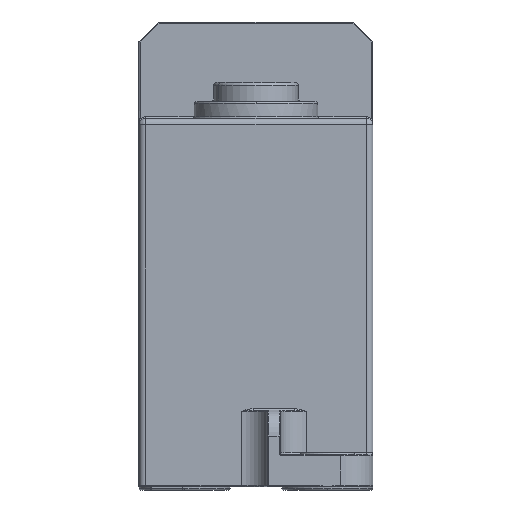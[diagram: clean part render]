
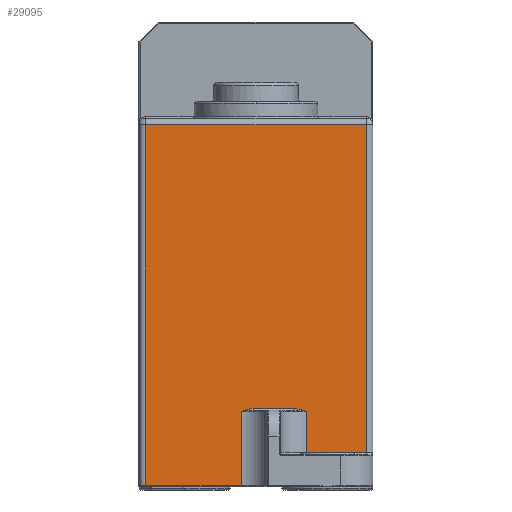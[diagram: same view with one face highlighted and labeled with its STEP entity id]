
A CAD part, left-side view. The second image highlights one B-rep face of the part: STEP entity #29095.
In plain terms, the highlighted planar face has unit normal (-1, 0, 0).
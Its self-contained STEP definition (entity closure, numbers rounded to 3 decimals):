
#186 = EDGE_CURVE ( 'NONE', #8585, #24531, #8661, .T. ) ;
#667 = DIRECTION ( 'NONE',  ( 0., 0., 1. ) ) ;
#782 = CARTESIAN_POINT ( 'NONE',  ( -65.405, 17.133, -28.85 ) ) ;
#834 = ORIENTED_EDGE ( 'NONE', *, *, #38565, .T. ) ;
#1318 = B_SPLINE_CURVE_WITH_KNOTS ( 'NONE', 3,
 ( #30686, #27193, #27468, #15509, #18175, #30544 ),
 .UNSPECIFIED., .F., .F.,
 ( 4, 2, 4 ),
 ( 0., 0.001, 0.002 ),
 .UNSPECIFIED. ) ;
#1641 = EDGE_CURVE ( 'NONE', #28712, #30841, #6205, .T. ) ;
#3033 = EDGE_CURVE ( 'NONE', #32080, #4862, #39315, .T. ) ;
#3280 = ORIENTED_EDGE ( 'NONE', *, *, #12655, .T. ) ;
#3542 = CARTESIAN_POINT ( 'NONE',  ( -65.405, 27.133, -22.45 ) ) ;
#4203 = CARTESIAN_POINT ( 'NONE',  ( -65.405, 27.133, 25.15 ) ) ;
#4242 = LINE ( 'NONE', #4203, #35726 ) ;
#4329 = ORIENTED_EDGE ( 'NONE', *, *, #8389, .T. ) ;
#4387 = VECTOR ( 'NONE', #16710, 1000. ) ;
#4862 = VERTEX_POINT ( 'NONE', #8532 ) ;
#5560 = CARTESIAN_POINT ( 'NONE',  ( -65.405, 27.133, -33.85 ) ) ;
#6042 = CARTESIAN_POINT ( 'NONE',  ( -65.405, 17.133, -22.45 ) ) ;
#6205 = LINE ( 'NONE', #22235, #29523 ) ;
#6533 = ORIENTED_EDGE ( 'NONE', *, *, #186, .T. ) ;
#6798 = DIRECTION ( 'NONE',  ( 0., 1., 0. ) ) ;
#7435 = ORIENTED_EDGE ( 'NONE', *, *, #20129, .T. ) ;
#7744 = CARTESIAN_POINT ( 'NONE',  ( -65.405, 6.883, -22.05 ) ) ;
#7798 = VECTOR ( 'NONE', #667, 1000. ) ;
#8243 = PLANE ( 'NONE',  #23610 ) ;
#8389 = EDGE_CURVE ( 'NONE', #36205, #28209, #27830, .T. ) ;
#8532 = CARTESIAN_POINT ( 'NONE',  ( -65.405, 25.344, -22.05 ) ) ;
#8585 = VERTEX_POINT ( 'NONE', #38489 ) ;
#8661 = LINE ( 'NONE', #16579, #12479 ) ;
#9540 = CARTESIAN_POINT ( 'NONE',  ( -65.405, 27.133, -33.85 ) ) ;
#9917 = VERTEX_POINT ( 'NONE', #14658 ) ;
#10193 = CARTESIAN_POINT ( 'NONE',  ( -65.405, 41.883, -33.85 ) ) ;
#11284 = EDGE_LOOP ( 'NONE', ( #6533, #3280, #26636, #19200, #11910, #7435, #35694, #31966, #4329, #834 ) ) ;
#11910 = ORIENTED_EDGE ( 'NONE', *, *, #36484, .T. ) ;
#12479 = VECTOR ( 'NONE', #16302, 1000. ) ;
#12593 = CARTESIAN_POINT ( 'NONE',  ( -65.405, 7.883, 21.65 ) ) ;
#12655 = EDGE_CURVE ( 'NONE', #24531, #31125, #22597, .T. ) ;
#13320 = LINE ( 'NONE', #21262, #29037 ) ;
#14544 = VECTOR ( 'NONE', #18743, 1000. ) ;
#14658 = CARTESIAN_POINT ( 'NONE',  ( -65.405, 18.921, -22.05 ) ) ;
#15469 = EDGE_CURVE ( 'NONE', #31125, #32080, #4242, .T. ) ;
#15509 = CARTESIAN_POINT ( 'NONE',  ( -65.405, 17.716, -22.26 ) ) ;
#15785 = CARTESIAN_POINT ( 'NONE',  ( -65.405, 25.652, -22.05 ) ) ;
#16302 = DIRECTION ( 'NONE',  ( 0., 0., -1. ) ) ;
#16579 = CARTESIAN_POINT ( 'NONE',  ( -65.405, 41.883, 25.15 ) ) ;
#16710 = DIRECTION ( 'NONE',  ( 0., -1., 0. ) ) ;
#17294 = LINE ( 'NONE', #7744, #4387 ) ;
#18175 = CARTESIAN_POINT ( 'NONE',  ( -65.405, 17.423, -22.356 ) ) ;
#18743 = DIRECTION ( 'NONE',  ( 0., -1., 0. ) ) ;
#18807 = CARTESIAN_POINT ( 'NONE',  ( -65.405, 7.883, 25.15 ) ) ;
#19200 = ORIENTED_EDGE ( 'NONE', *, *, #3033, .T. ) ;
#20129 = EDGE_CURVE ( 'NONE', #9917, #28712, #1318, .T. ) ;
#20965 = FACE_OUTER_BOUND ( 'NONE', #11284, .T. ) ;
#21262 = CARTESIAN_POINT ( 'NONE',  ( -65.405, 6.883, -28.85 ) ) ;
#22235 = CARTESIAN_POINT ( 'NONE',  ( -65.405, 17.133, -29.05 ) ) ;
#22597 = LINE ( 'NONE', #9540, #14544 ) ;
#23610 = AXIS2_PLACEMENT_3D ( 'NONE', #39158, #29546, #30061 ) ;
#24531 = VERTEX_POINT ( 'NONE', #10193 ) ;
#24842 = CARTESIAN_POINT ( 'NONE',  ( -65.405, 25.344, -22.05 ) ) ;
#25232 = CARTESIAN_POINT ( 'NONE',  ( -65.405, 25.954, -22.109 ) ) ;
#26211 = CARTESIAN_POINT ( 'NONE',  ( -65.405, 27.133, -22.45 ) ) ;
#26636 = ORIENTED_EDGE ( 'NONE', *, *, #15469, .T. ) ;
#27193 = CARTESIAN_POINT ( 'NONE',  ( -65.405, 18.613, -22.05 ) ) ;
#27468 = CARTESIAN_POINT ( 'NONE',  ( -65.405, 18.311, -22.109 ) ) ;
#27478 = CARTESIAN_POINT ( 'NONE',  ( -65.405, 7.883, -28.85 ) ) ;
#27830 = LINE ( 'NONE', #18807, #7798 ) ;
#28143 = CARTESIAN_POINT ( 'NONE',  ( -65.405, 26.549, -22.26 ) ) ;
#28164 = DIRECTION ( 'NONE',  ( 0., 0., 1. ) ) ;
#28209 = VERTEX_POINT ( 'NONE', #12593 ) ;
#28274 = CARTESIAN_POINT ( 'NONE',  ( -65.405, 26.841, -22.355 ) ) ;
#28330 = CARTESIAN_POINT ( 'NONE',  ( -65.405, 42.883, 21.65 ) ) ;
#28712 = VERTEX_POINT ( 'NONE', #6042 ) ;
#29037 = VECTOR ( 'NONE', #30301, 1000. ) ;
#29095 = ADVANCED_FACE ( 'NONE', ( #20965 ), #8243, .F. ) ;
#29523 = VECTOR ( 'NONE', #34111, 1000. ) ;
#29546 = DIRECTION ( 'NONE',  ( 1., 0., 0. ) ) ;
#30061 = DIRECTION ( 'NONE',  ( 0., 0., -1. ) ) ;
#30301 = DIRECTION ( 'NONE',  ( 0., -1., 0. ) ) ;
#30495 = VECTOR ( 'NONE', #6798, 1000. ) ;
#30544 = CARTESIAN_POINT ( 'NONE',  ( -65.405, 17.133, -22.45 ) ) ;
#30686 = CARTESIAN_POINT ( 'NONE',  ( -65.405, 18.921, -22.05 ) ) ;
#30841 = VERTEX_POINT ( 'NONE', #782 ) ;
#31125 = VERTEX_POINT ( 'NONE', #5560 ) ;
#31920 = LINE ( 'NONE', #28330, #30495 ) ;
#31966 = ORIENTED_EDGE ( 'NONE', *, *, #38951, .T. ) ;
#32080 = VERTEX_POINT ( 'NONE', #26211 ) ;
#34111 = DIRECTION ( 'NONE',  ( 0., 0., -1. ) ) ;
#35694 = ORIENTED_EDGE ( 'NONE', *, *, #1641, .T. ) ;
#35726 = VECTOR ( 'NONE', #28164, 1000. ) ;
#36205 = VERTEX_POINT ( 'NONE', #27478 ) ;
#36484 = EDGE_CURVE ( 'NONE', #4862, #9917, #17294, .T. ) ;
#38489 = CARTESIAN_POINT ( 'NONE',  ( -65.405, 41.883, 21.65 ) ) ;
#38565 = EDGE_CURVE ( 'NONE', #28209, #8585, #31920, .T. ) ;
#38951 = EDGE_CURVE ( 'NONE', #30841, #36205, #13320, .T. ) ;
#39158 = CARTESIAN_POINT ( 'NONE',  ( -65.405, 6.883, 25.15 ) ) ;
#39315 = B_SPLINE_CURVE_WITH_KNOTS ( 'NONE', 3,
 ( #3542, #28274, #28143, #25232, #15785, #24842 ),
 .UNSPECIFIED., .F., .F.,
 ( 4, 2, 4 ),
 ( 0., 0.001, 0.002 ),
 .UNSPECIFIED. ) ;
